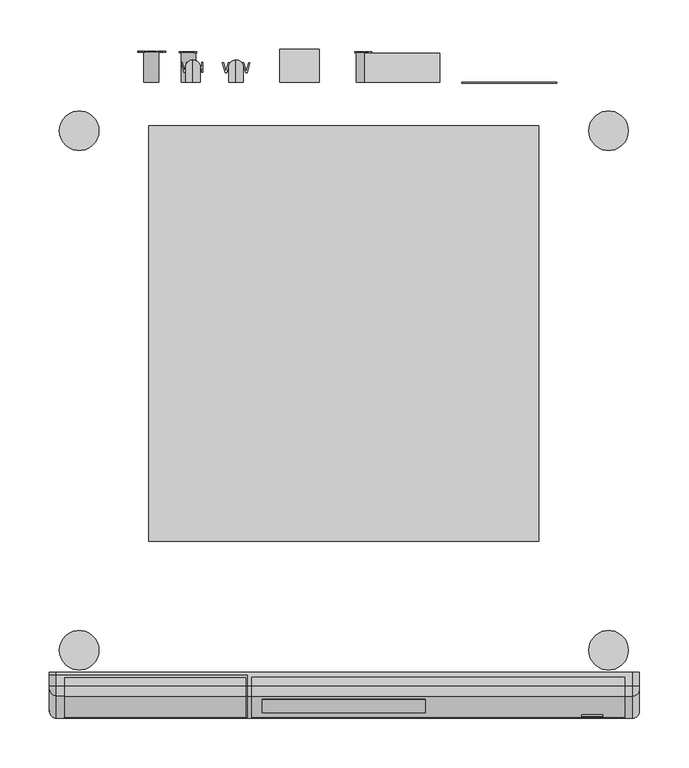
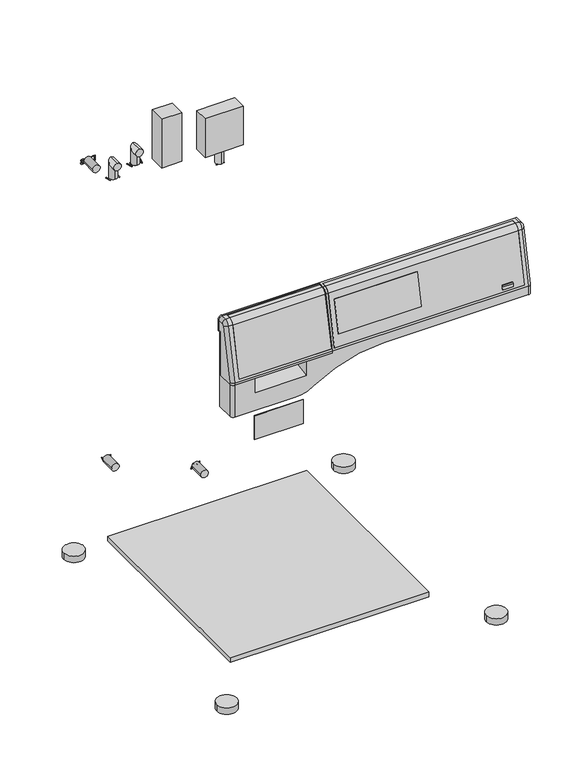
"""IFC4 building model written with IfcOpenShell, lengths in millimetres: proxy geometry, 11921290_F_PWM508DV_LW : 51508251_F_11921290_PWM508DV_LW."""

from ifc_helpers import new_model, si_unit, point, frame, frame_2d, origin, origin_with_axes, place, context, project, spatial, polyline, circle_curve, ellipse_curve, trimmed, segment, composite_curve, outline, extrude, source, transform, mapped, element, save
from ifc_brep_helpers import plane_surface, cylinder_surface, revolved_surface, advanced_brep


def specialty_equipment_d8dd58c1(model_context):
    return source(origin(), model_context, "Body", "SolidModel", [
        advanced_brep(
        [(-297.5, -634.5, 819.0), (-297.5, -640.0, 819.0), (-297.5, -640.0, 727.0), (-297.5, -671.0, 727.0), (-297.5, -671.0, 730.2642704), (-297.5, -648.6353607, 835.4816256), (-297.5, -644.8274781, 838.6486082), (-297.5, -634.5, 838.9190427), (-97.5, -655.4823939, 836.9370075), (-97.5, -678.0, 731.0), (-97.5, -678.0, 727.0), (-97.5, -640.0, 727.0), (-97.5, -640.0, 819.0), (-97.5, -634.5, 819.0), (-97.5, -634.5, 845.9214422), (-97.5, -645.0107168, 845.6462094), (-98.5, -655.4823939, 836.9370075), (-98.5, -677.1497738, 735.0), (-282.5, -677.1497738, 735.0), (-282.5, -655.4823939, 836.9370075), (-290.5, -655.4823939, 836.9370075), (-290.5, -678.0, 731.0), (-290.5, -678.0, 727.0), (-290.5, -634.5, 845.9214422), (-290.5, -645.0107168, 845.6462094), (-282.5, -645.0107168, 845.6462094), (-282.5, -636.5, 845.8690704), (-98.5, -636.5, 845.8690704), (-98.5, -645.0107168, 845.6462094), (-98.5, -654.5042463, 836.7290958), (-98.5, -676.1274332, 735.0), (-98.5, -636.5, 844.8687276), (-98.5, -644.9845398, 844.6465521), (-282.5, -654.5042463, 836.7290958), (-282.5, -644.9845398, 844.6465521), (-282.5, -636.5, 844.8687276), (-282.5, -676.1274332, 735.0)],
        [
            (0, 1),
            (1, 2),
            (2, 3),
            (3, 4),
            (4, 5),
            (5, 6, circle_curve(frame((-297.5, -644.7227703, 834.6499789), z_axis=(-1.0, 0.0, 0.0), x_axis=(0.0, -0.978147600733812, 0.20791169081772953)), 4.0)),
            (6, 7),
            (7, 0),
            (8, 9),
            (9, 10),
            (10, 11),
            (11, 12),
            (12, 13),
            (13, 14),
            (14, 15),
            (15, 8, circle_curve(frame((-97.5, -644.7227703, 834.6499789), z_axis=(1.0, 0.0, 0.0), x_axis=(0.0, 1.0, 0.0)), 11.0)),
            (8, 16),
            (16, 17),
            (17, 18),
            (18, 19),
            (19, 20),
            (20, 21),
            (21, 9),
            (21, 22),
            (22, 10),
            (22, 3, circle_curve(frame((-290.5, -671.0, 727.0), z_axis=(0.0, 0.0, -1.0), x_axis=(0.0, 1.0, 0.0)), 7.0)),
            (2, 11),
            (1, 12),
            (0, 13),
            (7, 23, ellipse_curve(frame((-290.5, -634.5, 838.9190427), z_axis=(0.0, 1.0, 0.0), x_axis=(0.0, 0.0, 1.0)), 7.0023995, 7.0)),
            (23, 14),
            (23, 24),
            (24, 25),
            (25, 26),
            (26, 27),
            (27, 28),
            (28, 15),
            (28, 16, circle_curve(frame((-98.5, -644.7227703, 834.6499789), z_axis=(1.0, 0.0, 0.0), x_axis=(0.0, 1.0, 0.0)), 11.0)),
            (19, 25, circle_curve(frame((-282.5, -644.7227703, 834.6499789), z_axis=(-1.0, 0.0, 0.0), x_axis=(0.0, 1.0, 0.0)), 11.0)),
            (24, 20, circle_curve(frame((-290.5, -644.7227703, 834.6499789), z_axis=(1.0, 0.0, 0.0), x_axis=(0.0, 1.0, 0.0)), 11.0)),
            (29, 30),
            (30, 17),
            (27, 31),
            (31, 32),
            (32, 29, circle_curve(frame((-98.5, -644.7227703, 834.6499789), z_axis=(1.0, 0.0, 0.0), x_axis=(0.0, 1.0, 0.0)), 10.0)),
            (33, 34, circle_curve(frame((-282.5, -644.7227703, 834.6499789), z_axis=(-1.0, 0.0, 0.0), x_axis=(0.0, 1.0, 0.0)), 10.0)),
            (34, 35),
            (35, 26),
            (18, 36),
            (36, 33),
            (29, 33),
            (36, 30),
            (32, 34),
            (31, 35),
            (6, 24, circle_curve(frame((-290.5, -644.8274781, 838.6486082), z_axis=(0.0, 0.9996573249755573, 0.026176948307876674), x_axis=(0.0, 0.026176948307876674, -0.9996573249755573)), 7.0)),
            (21, 4, ellipse_curve(frame((-290.5, -671.0, 730.2642704), z_axis=(0.0, -0.10452846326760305, -0.9945218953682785), x_axis=(0.0, -0.9945218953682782, 0.1045284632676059)), 7.038558, 7.0)),
            (20, 5, circle_curve(frame((-290.5, -648.6353607, 835.4816256), z_axis=(0.0, -0.2079116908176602, -0.9781476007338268), x_axis=(0.0, 0.9781476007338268, -0.2079116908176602)), 7.0)),
        ],
        [
            plane_surface(frame((-297.5, -655.4823939, 836.9370075), z_axis=(-1.0, 0.0, 0.0), x_axis=(0.0, 0.20791169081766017, 0.9781476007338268))),
            plane_surface(frame((-97.5, -655.4823939, 836.9370075), z_axis=(1.0, 0.0, 0.0), x_axis=(0.0, -0.20791169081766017, -0.9781476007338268))),
            plane_surface(frame((-97.5, -655.4823939, 836.9370075), z_axis=(0.0, -0.9781476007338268, 0.20791169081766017), x_axis=(-1.0, 0.0, 0.0))),
            plane_surface(frame((-97.5, -678.0, 731.0), z_axis=(0.0, -1.0, 0.0), x_axis=(-1.0, 0.0, 0.0))),
            plane_surface(frame((-97.5, -678.0, 727.0), z_axis=(0.0, 0.0, -1.0), x_axis=(-1.0, 0.0, 0.0))),
            plane_surface(frame((-97.5, -640.0, 727.0), z_axis=(0.0, 1.0, 0.0), x_axis=(-1.0, 0.0, 0.0))),
            plane_surface(frame((-97.5, -640.0, 819.0), z_axis=(0.0, 0.0, -1.0), x_axis=(-1.0, 0.0, 0.0))),
            plane_surface(frame((-97.5, -634.5, 819.0), z_axis=(0.0, 1.0, 0.0), x_axis=(-1.0, 0.0, 0.0))),
            plane_surface(frame((-97.5, -634.5, 845.9214422), z_axis=(0.0, -0.02617694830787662, 0.9996573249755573), x_axis=(-1.0, 0.0, 0.0))),
            cylinder_surface(frame((-297.5, -644.7227703, 834.6499789), z_axis=(1.0, 0.0, 0.0), x_axis=(0.0, 1.0, 0.0)), 11.0),
            plane_surface(frame((-98.5, -634.7227703, 834.6499789), z_axis=(-1.0, 0.0, 0.0), x_axis=(0.0, 0.0, -1.0))),
            plane_surface(frame((-282.5, -634.7227703, 834.6499789), z_axis=(1.0, 0.0, 0.0), x_axis=(0.0, 0.0, 1.0))),
            plane_surface(frame((-98.5, -676.1274332, 735.0), z_axis=(0.0, -0.9781476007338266, 0.2079116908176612), x_axis=(-1.0, 0.0, 0.0))),
            cylinder_surface(frame((-282.5, -644.7227703, 834.6499789), z_axis=(-1.0, 0.0, 0.0), x_axis=(0.0, 1.0, 0.0)), 10.0),
            plane_surface(frame((-98.5, -644.9845398, 844.6465521), z_axis=(0.0, -0.026176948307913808, 0.9996573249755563), x_axis=(-1.0, 0.0, 0.0))),
            plane_surface(frame((-98.5, -636.5, 844.8687276), z_axis=(0.0, -1.0, 0.0), x_axis=(-1.0, 0.0, 0.0))),
            plane_surface(frame((-98.5, -677.1497738, 735.0), z_axis=(0.0, 0.0, 1.0), x_axis=(-1.0, 0.0, 0.0))),
            cylinder_surface(frame((-290.5, -644.8274781, 838.6486082), z_axis=(0.0, 0.9996573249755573, 0.026176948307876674), x_axis=(0.0, 0.026176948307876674, -0.9996573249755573)), 7.0),
            cylinder_surface(frame((-290.5, -671.0, 727.0), z_axis=(0.0, 0.0, 1.0), x_axis=(0.0, 1.0, 0.0)), 7.0),
            cylinder_surface(frame((-290.5, -671.1529668, 729.5446182), z_axis=(0.0, 0.2079116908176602, 0.9781476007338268), x_axis=(0.0, 0.9781476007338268, -0.2079116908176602)), 7.0),
            revolved_surface(trimmed(ellipse_curve(frame((-290.5, -648.6353607, 835.4816256), z_axis=(0.0, -0.20791169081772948, -0.978147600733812), x_axis=(0.0, 0.978147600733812, -0.20791169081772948)), 7.0, 7.0), [point((-290.5, -655.4823939, 836.9370075))], [point((-297.5, -648.6353607, 835.4816256))], True, "CARTESIAN"), (-297.5, -644.7227703, 834.6499789), (-1.0, 0.0, 0.0)),
        ],
        [
            (0, [[1, 2, 3, 4, 5, 6, 7, 8]]),
            (1, [[9, 10, 11, 12, 13, 14, 15, 16]]),
            (2, [[-9, 17, 18, 19, 20, 21, 22, 23]]),
            (3, [[-10, -23, 24, 25]]),
            (4, [[-11, -25, 26, -3, 27]]),
            (5, [[-2, 28, -12, -27]]),
            (6, [[-1, 29, -13, -28]]),
            (7, [[-14, -29, -8, 30, 31]]),
            (8, [[-15, -31, 32, 33, 34, 35, 36, 37]]),
            (9, [[-16, -37, 38, -17]]),
            (9, [[39, -33, 40, -21]]),
            (10, [[41, 42, -18, -38, -36, 43, 44, 45]]),
            (11, [[46, 47, 48, -34, -39, -20, 49, 50]]),
            (12, [[-41, 51, -50, 52]]),
            (13, [[-45, 53, -46, -51]]),
            (14, [[-44, 54, -47, -53]]),
            (15, [[-43, -35, -48, -54]]),
            (16, [[-42, -52, -49, -19]]),
            (17, [[55, -32, -30, -7]]),
            (18, [[56, -4, -26, -24]]),
            (19, [[-56, -22, 57, -5]]),
            (20, [[-57, -40, -55, -6]]),
        ],
    ),
        extrude(outline(polyline([(-671.2386322, 758.0), (-672.2609728, 758.0), (-658.4447963, 823.0), (-657.4224557, 823.0), (-671.2386322, 758.0)])), frame((-82.5, 0.0, 0.0), z_axis=(1.0, 0.0, 0.0), x_axis=(0.0, 1.0, 0.0)), (0.0, 0.0, 1.0), 165.0),
        advanced_brep(
        [(284.0, -654.5042463, 836.7290958), (284.0, -644.9845398, 844.6465521), (284.0, -636.5, 844.8687276), (284.0, -636.5, 845.8690704), (284.0, -645.0107168, 845.6462094), (284.0, -655.4823939, 836.9370075), (284.0, -677.1497738, 735.0), (284.0, -676.1274332, 735.0), (-93.0, -654.5042463, 836.7290958), (-93.0, -676.1274332, 735.0), (-93.0, -677.1497738, 735.0), (-93.0, -655.4823939, 836.9370075), (-93.0, -645.0107168, 845.6462094), (-93.0, -636.5, 845.8690704), (-93.0, -636.5, 844.8687276), (-93.0, -644.9845398, 844.6465521), (82.5, -658.4447963, 823.0), (82.5, -672.2609728, 758.0), (-82.5, -672.2609728, 758.0), (-82.5, -658.4447963, 823.0), (82.5, -671.2386322, 758.0), (82.5, -657.4224557, 823.0), (-82.5, -657.4224557, 823.0), (-82.5, -671.2386322, 758.0)],
        [
            (0, 1, circle_curve(frame((284.0, -644.7227703, 834.6499789), z_axis=(-1.0, 0.0, 0.0), x_axis=(0.0, 1.0, 0.0)), 10.0)),
            (1, 2),
            (2, 3),
            (3, 4),
            (4, 5, circle_curve(frame((284.0, -644.7227703, 834.6499789), z_axis=(1.0, 0.0, 0.0), x_axis=(0.0, 1.0, 0.0)), 11.0)),
            (5, 6),
            (6, 7),
            (7, 0),
            (8, 9),
            (9, 10),
            (10, 11),
            (11, 12, circle_curve(frame((-93.0, -644.7227703, 834.6499789), z_axis=(-1.0, 0.0, 0.0), x_axis=(0.0, 1.0, 0.0)), 11.0)),
            (12, 13),
            (13, 14),
            (14, 15),
            (15, 8, circle_curve(frame((-93.0, -644.7227703, 834.6499789), z_axis=(1.0, 0.0, 0.0), x_axis=(0.0, 1.0, 0.0)), 10.0)),
            (0, 8),
            (15, 1),
            (14, 2),
            (13, 3),
            (12, 4),
            (11, 5),
            (10, 6),
            (16, 17),
            (17, 18),
            (18, 19),
            (19, 16),
            (9, 7),
            (20, 21),
            (21, 22),
            (22, 23),
            (23, 20),
            (20, 17),
            (16, 21),
            (22, 19),
            (18, 23),
        ],
        [
            plane_surface(frame((284.0, -634.7227703, 834.6499789), z_axis=(1.0, 0.0, 0.0), x_axis=(0.0, 0.0, -1.0))),
            plane_surface(frame((-93.0, -634.7227703, 834.6499789), z_axis=(-1.0, 0.0, 0.0), x_axis=(0.0, 0.0, 1.0))),
            revolved_surface(polyline([(-93.0, -634.7227703, 834.6499789), (284.0, -634.7227703, 834.6499789)]), (-93.0, -644.7227703, 834.6499789), (-1.0, 0.0, 0.0)),
            plane_surface(frame((284.0, -644.9845398, 844.6465521), z_axis=(0.0, 0.02617694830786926, -0.9996573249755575), x_axis=(-1.0, 0.0, 0.0))),
            plane_surface(frame((284.0, -636.5, 844.8687276), z_axis=(0.0, 1.0, 0.0), x_axis=(-1.0, 0.0, 0.0))),
            plane_surface(frame((284.0, -636.5, 845.8690704), z_axis=(0.0, -0.026176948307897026, 0.9996573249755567), x_axis=(-1.0, 0.0, 0.0))),
            cylinder_surface(frame((-93.0, -644.7227703, 834.6499789), z_axis=(1.0, 0.0, 0.0), x_axis=(0.0, 1.0, 0.0)), 11.0),
            plane_surface(frame((284.0, -655.4823939, 836.9370075), z_axis=(0.0, -0.9781476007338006, 0.20791169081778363), x_axis=(-1.0, 0.0, 0.0))),
            plane_surface(frame((284.0, -677.1497738, 735.0), z_axis=(0.0, 0.0, -1.0), x_axis=(-1.0, 0.0, 0.0))),
            plane_surface(frame((284.0, -676.1274332, 735.0), z_axis=(0.0, 0.9781476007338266, -0.2079116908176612), x_axis=(-1.0, 0.0, 0.0))),
            plane_surface(frame((82.5, -658.4447963, 823.0), z_axis=(-1.0, 0.0, 0.0), x_axis=(0.0, -1.0, 0.0))),
            plane_surface(frame((-82.5, -658.4447963, 823.0), z_axis=(1.0, 0.0, 0.0), x_axis=(0.0, 1.0, 0.0))),
            plane_surface(frame((82.5, -657.4224557, 823.0), z_axis=(0.0, 0.0, -1.0), x_axis=(-1.0, 0.0, 0.0))),
            plane_surface(frame((82.5, -672.2609728, 758.0), z_axis=(0.0, 0.0, 1.0), x_axis=(-1.0, 0.0, 0.0))),
        ],
        [
            (0, [[1, 2, 3, 4, 5, 6, 7, 8]]),
            (1, [[9, 10, 11, 12, 13, 14, 15, 16]]),
            (2, [[-1, 17, -16, 18]]),
            (3, [[-2, -18, -15, 19]]),
            (4, [[-3, -19, -14, 20]]),
            (5, [[-4, -20, -13, 21]]),
            (6, [[-5, -21, -12, 22]]),
            (7, [[-6, -22, -11, 23], [24, 25, 26, 27]]),
            (8, [[-7, -23, -10, 28]]),
            (9, [[-8, -28, -9, -17], [29, 30, 31, 32]]),
            (10, [[33, -24, 34, -29]]),
            (11, [[35, -26, 36, -31]]),
            (12, [[-34, -27, -35, -30]]),
            (13, [[-33, -32, -36, -25]]),
        ],
    ),
        advanced_brep(
        [(298.5, -637.0, 816.0), (298.5, -631.5, 816.0), (298.5, -631.5, 838.9976005), (298.5, -644.8274781, 838.6486082), (298.5, -648.6353607, 835.4816256), (298.5, -671.0, 730.2642704), (298.5, -671.0, 713.0), (298.5, -637.0, 713.0), (-297.5, -637.0, 816.0), (-297.5, -637.0, 660.0), (-297.5, -671.0, 660.0), (-297.5, -671.0, 727.0), (-297.5, -640.0, 727.0), (-297.5, -640.0, 819.0), (-297.5, -634.5, 819.0), (-297.5, -634.5, 838.9190427), (-297.5, -631.5, 838.9976005), (-297.5, -631.5, 816.0), (-290.5, -631.5, 846.0), (291.5, -631.5, 846.0), (284.0, -636.5, 845.8690704), (284.0, -645.0107168, 845.6462094), (291.5, -645.0107168, 845.6462094), (-290.5, -634.5, 845.9214422), (-97.5, -634.5, 845.9214422), (-97.5, -645.0107168, 845.6462094), (-93.0, -645.0107168, 845.6462094), (-93.0, -636.5, 845.8690704), (284.0, -655.4823939, 836.9370075), (291.5000072, -655.4823939, 836.9370075), (-93.0, -655.4823939, 836.9370075), (-97.5, -655.4823939, 836.9370075), (284.0, -677.1497738, 735.0), (-93.0, -677.1497738, 735.0), (-97.5, -678.0, 731.0), (291.5, -678.0, 731.0), (-97.5, -678.0, 727.0), (-148.5, -678.0, 727.0), (-148.5, -678.0, 697.0), (-251.5, -678.0, 697.0), (-251.5, -678.0, 727.0), (-290.5, -678.0, 727.0), (-290.5, -678.0, 660.0), (-170.6302935, -678.0, 660.0), (-135.780818, -678.0, 670.5165354), (5.0, -678.0, 713.0), (291.5, -678.0, 713.0), (-170.6302935, -637.0, 660.0), (5.0, -637.0, 713.0), (-135.780818, -637.0, 670.5165354), (284.0, -636.5, 844.8687276), (284.0, -644.9845398, 844.6465521), (284.0, -654.5042463, 836.7290958), (284.0, -676.1274332, 735.0), (-93.0, -676.1274332, 735.0), (-93.0, -654.5042463, 836.7290958), (-93.0, -644.9845398, 844.6465521), (-93.0, -636.5, 844.8687276), (-97.5, -634.5, 819.0), (-97.5, -640.0, 819.0), (-97.5, -640.0, 727.0), (-148.5, -640.0, 727.0), (-251.5, -640.0, 727.0), (-251.5, -640.0, 703.7004253), (-148.5, -640.0, 703.7004253)],
        [
            (0, 1),
            (1, 2),
            (2, 3),
            (3, 4, circle_curve(frame((298.5, -644.7227703, 834.6499789), z_axis=(1.0, 0.0, 0.0), x_axis=(0.0, -0.02617694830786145, 0.9996573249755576)), 4.0)),
            (4, 5),
            (5, 6),
            (6, 7),
            (7, 0),
            (8, 9),
            (9, 10),
            (10, 11),
            (11, 12),
            (12, 13),
            (13, 14),
            (14, 15),
            (15, 16),
            (16, 17),
            (17, 8),
            (0, 8),
            (17, 1),
            (16, 18, ellipse_curve(frame((-290.5, -631.5, 838.9976005), z_axis=(0.0, 1.0, 0.0), x_axis=(0.0, 0.0, 0.9999999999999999)), 7.0023995, 7.0)),
            (18, 19),
            (19, 2, ellipse_curve(frame((291.5, -631.5, 838.9976005), z_axis=(0.0, 1.0, 0.0), x_axis=(0.0, 0.0, -1.0)), 7.0023995, 7.0)),
            (20, 21),
            (21, 22),
            (22, 19),
            (18, 23),
            (23, 24),
            (24, 25),
            (25, 26),
            (26, 27),
            (27, 20),
            (21, 28, circle_curve(frame((284.0, -644.7227703, 834.6499789), z_axis=(1.0, 0.0, 0.0), x_axis=(0.0, 1.0, 0.0)), 11.0)),
            (28, 29),
            (29, 22, circle_curve(frame((291.5, -644.7227703, 834.6499789), z_axis=(-1.0, 0.0, 0.0), x_axis=(0.0, 1.0, 0.0)), 11.0)),
            (30, 26, circle_curve(frame((-93.0, -644.7227703, 834.6499789), z_axis=(-1.0, 0.0, 0.0), x_axis=(0.0, 1.0, 0.0)), 11.0)),
            (25, 31, circle_curve(frame((-97.5, -644.7227703, 834.6499789), z_axis=(1.0, 0.0, 0.0), x_axis=(0.0, 1.0, 0.0)), 11.0)),
            (31, 30),
            (28, 32),
            (32, 33),
            (33, 30),
            (31, 34),
            (34, 35),
            (35, 29),
            (34, 36),
            (36, 37),
            (37, 38),
            (38, 39),
            (39, 40),
            (40, 41),
            (41, 42),
            (42, 43),
            (43, 44, circle_curve(frame((-170.6302935, -678.0, 723.0), z_axis=(0.0, -1.0, 0.0), x_axis=(1.0, 0.0, 0.0)), 63.0)),
            (44, 45, circle_curve(frame((5.0, -678.0, 458.5), z_axis=(0.0, 1.0, 0.0), x_axis=(1.0, 0.0, 0.0)), 254.5)),
            (45, 46),
            (46, 35),
            (9, 47),
            (47, 43),
            (42, 10, circle_curve(frame((-290.5, -671.0, 660.0), z_axis=(0.0, 0.0, -1.0), x_axis=(0.0, 1.0, 0.0)), 7.0)),
            (7, 48),
            (48, 49, circle_curve(frame((5.0, -637.0, 458.5), z_axis=(0.0, -1.0, 0.0), x_axis=(1.0, 0.0, 0.0)), 254.5)),
            (49, 47, circle_curve(frame((-170.6302935, -637.0, 723.0), z_axis=(0.0, 1.0, 0.0), x_axis=(1.0, 0.0, 0.0)), 63.0)),
            (20, 50),
            (50, 51),
            (51, 52, circle_curve(frame((284.0, -644.7227703, 834.6499789), z_axis=(1.0, 0.0, 0.0), x_axis=(0.0, 1.0, 0.0)), 10.0)),
            (52, 53),
            (53, 32),
            (33, 54),
            (54, 55),
            (55, 56, circle_curve(frame((-93.0, -644.7227703, 834.6499789), z_axis=(-1.0, 0.0, 0.0), x_axis=(0.0, 1.0, 0.0)), 10.0)),
            (56, 57),
            (57, 27),
            (53, 54),
            (52, 55),
            (51, 56),
            (50, 57),
            (24, 58),
            (58, 59),
            (59, 60),
            (60, 36),
            (60, 61),
            (61, 37),
            (62, 12),
            (11, 41, circle_curve(frame((-290.5, -671.0, 727.0), z_axis=(0.0, 0.0, 1.0), x_axis=(0.0, 1.0, 0.0)), 7.0)),
            (40, 62),
            (59, 13),
            (62, 63),
            (63, 64),
            (64, 61),
            (58, 14),
            (23, 15, ellipse_curve(frame((-290.5, -634.5, 838.9190427), z_axis=(0.0, -1.0, 0.0), x_axis=(0.0, 0.0, 0.9999999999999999)), 7.0023995, 7.0)),
            (64, 38),
            (39, 63),
            (22, 3, circle_curve(frame((291.5, -644.8274781, 838.6486082), z_axis=(0.0, 0.9996573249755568, 0.02617694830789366), x_axis=(1.0, 0.0, 0.0)), 7.0)),
            (29, 4, circle_curve(frame((291.5, -648.6353607, 835.4816256), z_axis=(0.0, 0.20791169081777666, 0.9781476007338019), x_axis=(1.0, 0.0, 0.0)), 7.0)),
            (35, 5, ellipse_curve(frame((291.5, -671.0, 730.2642704), z_axis=(0.0, 0.10452846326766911, 0.9945218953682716), x_axis=(0.0, -0.9945218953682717, 0.10452846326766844)), 7.038558, 7.0)),
            (46, 6, circle_curve(frame((291.5, -671.0, 713.0), z_axis=(0.0, 0.0, 1.0), x_axis=(1.0, 0.0, 0.0)), 7.0)),
            (45, 48),
            (44, 49),
        ],
        [
            plane_surface(frame((298.5, -631.5, 816.0), z_axis=(1.0, 0.0, 0.0), x_axis=(0.0, 1.0, 0.0))),
            plane_surface(frame((-297.5, -631.5, 816.0), z_axis=(-1.0, 0.0, 0.0), x_axis=(0.0, -1.0, 0.0))),
            plane_surface(frame((298.5, -637.0, 816.0), z_axis=(0.0, 0.0, -1.0), x_axis=(-1.0, 0.0, 0.0))),
            plane_surface(frame((298.5, -631.5, 816.0), z_axis=(0.0, 1.0, 0.0), x_axis=(-1.0, 0.0, 0.0))),
            plane_surface(frame((298.5, -631.5, 846.0), z_axis=(0.0, -0.026176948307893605, 0.9996573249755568), x_axis=(-1.0, 0.0, 0.0))),
            cylinder_surface(frame((-297.5, -644.7227703, 834.6499789), z_axis=(1.0, 0.0, 0.0), x_axis=(0.0, 1.0, 0.0)), 11.0),
            plane_surface(frame((298.5, -655.4823939, 836.9370075), z_axis=(0.0, -0.9781476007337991, 0.20791169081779), x_axis=(-1.0, 0.0, 0.0))),
            plane_surface(frame((298.5, -678.0, 731.0), z_axis=(0.0, -1.0, 0.0), x_axis=(-1.0, 0.0, 0.0))),
            plane_surface(frame((298.5, -678.0, 660.0), z_axis=(0.0, 0.0, -1.0), x_axis=(-1.0, 0.0, 0.0))),
            plane_surface(frame((298.5, -637.0, 660.0), z_axis=(0.0, 1.0, 0.0), x_axis=(-1.0, 0.0, 0.0))),
            plane_surface(frame((284.0, -677.1497738, 735.0), z_axis=(-1.0, 0.0, 0.0), x_axis=(0.0, 1.0, 0.0))),
            plane_surface(frame((-93.0, -677.1497738, 735.0), z_axis=(1.0, 0.0, 0.0), x_axis=(0.0, -1.0, 0.0))),
            plane_surface(frame((284.0, -677.1497738, 735.0), z_axis=(0.0, 0.0, 1.0), x_axis=(-1.0, 0.0, 0.0))),
            plane_surface(frame((284.0, -676.1274332, 735.0), z_axis=(0.0, -0.9781476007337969, 0.20791169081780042), x_axis=(-1.0, 0.0, 0.0))),
            cylinder_surface(frame((-93.0, -644.7227703, 834.6499789), z_axis=(-1.0, 0.0, 0.0), x_axis=(0.0, 1.0, 0.0)), 10.0),
            plane_surface(frame((284.0, -644.9845398, 844.6465521), z_axis=(0.0, -0.026176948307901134, 0.9996573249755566), x_axis=(-1.0, 0.0, 0.0))),
            plane_surface(frame((284.0, -636.5, 844.8687276), z_axis=(0.0, -1.0, 0.0), x_axis=(-1.0, 0.0, 0.0))),
            plane_surface(frame((-97.5, -678.0, 727.0), z_axis=(-1.0, 0.0, 0.0), x_axis=(0.0, 1.0, 0.0))),
            plane_surface(frame((-97.5, -678.0, 727.0), z_axis=(0.0, 0.0, 1.0), x_axis=(-1.0, 0.0, 0.0))),
            plane_surface(frame((-97.5, -640.0, 727.0), z_axis=(0.0, -1.0, 0.0), x_axis=(-1.0, 0.0, 0.0))),
            plane_surface(frame((-97.5, -640.0, 819.0), z_axis=(0.0, 0.0, 1.0), x_axis=(-1.0, 0.0, 0.0))),
            plane_surface(frame((-97.5, -634.5, 819.0), z_axis=(0.0, -1.0, 0.0), x_axis=(-1.0, 0.0, 0.0))),
            plane_surface(frame((-148.5, -678.0, 697.0), z_axis=(-1.0000000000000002, 0.0, 0.0), x_axis=(0.0, 0.9848077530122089, 0.17364817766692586))),
            plane_surface(frame((-251.5, -678.0, 697.0), z_axis=(1.0000000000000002, 0.0, 0.0), x_axis=(0.0, -0.9848077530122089, -0.17364817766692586))),
            plane_surface(frame((-148.5, -678.0, 697.0), z_axis=(0.0, -0.17364817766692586, 0.9848077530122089), x_axis=(-1.0, 0.0, 0.0))),
            cylinder_surface(frame((-290.5, -671.0, 660.0), z_axis=(0.0, 0.0, 1.0), x_axis=(0.0, 1.0, 0.0)), 7.0),
            cylinder_surface(frame((-290.5, -644.8274781, 838.6486082), z_axis=(0.0, 0.9996573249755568, 0.02617694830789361), x_axis=(0.0, 0.02617694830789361, -0.9996573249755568)), 7.0),
            cylinder_surface(frame((291.5, -631.3167614, 839.0023987), z_axis=(0.0, -0.9996573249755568, -0.02617694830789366), x_axis=(1.0, 0.0, 0.0)), 7.0),
            revolved_surface(trimmed(ellipse_curve(frame((291.5, -644.8274781, 838.6486082), z_axis=(0.0, 0.9996573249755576, 0.026176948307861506), x_axis=(1.0, 0.0, 0.0)), 7.0, 7.0), [point((291.5, -645.0107168, 845.6462094))], [point((298.5, -644.8274781, 838.6486082))], True, "CARTESIAN"), (298.5, -644.7227703, 834.6499789), (1.0, 0.0, 0.0)),
            cylinder_surface(frame((291.5, -648.6353607, 835.4816256), z_axis=(0.0, -0.20791169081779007, -0.9781476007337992), x_axis=(1.0, 0.0, 0.0)), 7.0),
            cylinder_surface(frame((291.5, -671.0, 731.0), z_axis=(0.0, 0.0, -1.0), x_axis=(1.0, 0.0, 0.0)), 7.0),
            plane_surface(frame((298.5, -678.0, 713.0), z_axis=(0.0, 0.0, -1.0), x_axis=(0.0, 1.0, 0.0))),
            revolved_surface(polyline([(259.5, -678.0, 458.5), (259.5, -637.0, 458.5)]), (5.0, -637.0, 458.5), (0.0, -1.0, 0.0)),
            cylinder_surface(frame((-170.6302935, -637.0, 723.0), z_axis=(0.0, 1.0, 0.0), x_axis=(1.0, 0.0, 0.0)), 63.0),
        ],
        [
            (0, [[1, 2, 3, 4, 5, 6, 7, 8]]),
            (1, [[9, 10, 11, 12, 13, 14, 15, 16, 17, 18]]),
            (2, [[-1, 19, -18, 20]]),
            (3, [[-20, -17, 21, 22, 23, -2]]),
            (4, [[24, 25, 26, -22, 27, 28, 29, 30, 31, 32]]),
            (5, [[33, 34, 35, -25]]),
            (5, [[36, -30, 37, 38]]),
            (6, [[39, 40, 41, -38, 42, 43, 44, -34]]),
            (7, [[45, 46, 47, 48, 49, 50, 51, 52, 53, 54, 55, 56, -43]]),
            (8, [[-10, 57, 58, -52, 59]]),
            (9, [[-9, -19, -8, 60, 61, 62, -57]]),
            (10, [[63, 64, 65, 66, 67, -39, -33, -24]]),
            (11, [[68, 69, 70, 71, 72, -31, -36, -41]]),
            (12, [[-67, 73, -68, -40]]),
            (13, [[-66, 74, -69, -73]]),
            (14, [[-65, 75, -70, -74]]),
            (15, [[-64, 76, -71, -75]]),
            (16, [[-63, -32, -72, -76]]),
            (17, [[77, 78, 79, 80, -45, -42, -37, -29]]),
            (18, [[-80, 81, 82, -46]]),
            (18, [[83, -12, 84, -50, 85]]),
            (19, [[-79, 86, -13, -83, 87, 88, 89, -81]]),
            (20, [[-78, 90, -14, -86]]),
            (21, [[-77, -28, 91, -15, -90]]),
            (22, [[-89, 92, -47, -82]]),
            (23, [[93, -87, -85, -49]]),
            (24, [[-92, -88, -93, -48]]),
            (25, [[-11, -59, -51, -84]]),
            (26, [[-16, -91, -27, -21]]),
            (27, [[94, -3, -23, -26]]),
            (28, [[-94, -35, 95, -4]]),
            (29, [[-95, -44, 96, -5]]),
            (30, [[-96, -56, 97, -6]]),
            (31, [[98, -60, -7, -97, -55]]),
            (32, [[-98, -54, 99, -61]]),
            (33, [[-99, -53, -58, -62]]),
        ],
    ),
        extrude(outline(polyline([(-675.8744344, 741.0), (-678.0, 741.0), (-676.8772818, 746.2819736), (-675.6098453, 749.0), (-674.1739819, 749.0), (-675.8744344, 741.0)])), frame((240.5, 0.0, 0.0), z_axis=(1.0, 0.0, 0.0), x_axis=(0.0, 1.0, 0.0)), (0.0, 0.0, 1.0), 21.0),
        extrude(outline(composite_curve([segment(polyline([(-676.1274332, 735.0), (-677.1497738, 735.0), (-655.4823939, 836.9370075)]), True, "CONTINUOUS"), segment(trimmed(circle_curve(frame_2d((-644.7227703, 834.6499789)), 11.0), [point((-655.4823939, 836.9370075))], [point((-645.0107168, 845.6462094))], False, "CARTESIAN"), True, "CONTINUOUS"), segment(polyline([(-645.0107168, 845.6462094), (-636.5, 845.8690704), (-636.5, 844.8687276), (-644.9845398, 844.6465521)]), True, "CONTINUOUS"), segment(trimmed(circle_curve(frame_2d((-644.7227703, 834.6499789)), 10.0), [point((-644.9845398, 844.6465521))], [point((-654.5042463, 836.7290958))], True, "CARTESIAN"), True, "CONTINUOUS"), segment(polyline([(-654.5042463, 836.7290958), (-676.1274332, 735.0)]), True, "CONTINUOUS")], self_intersect=False)), frame((-282.5, 0.0, 0.0), z_axis=(1.0, 0.0, 0.0), x_axis=(0.0, 1.0, 0.0)), (0.0, 0.0, 1.0), 184.0),
        extrude(outline(composite_curve([segment(trimmed(circle_curve(frame_2d((757.5, -194.5)), 7.5), [point((757.5, -187.0))], [point((757.5, -202.0))], False, "CARTESIAN"), True, "CONTINUOUS"), segment(trimmed(circle_curve(frame_2d((757.5, -194.5)), 7.5), [point((757.5, -202.0))], [point((757.5, -187.0))], False, "CARTESIAN"), True, "CONTINUOUS")], self_intersect=False)), frame((0.0, -35.0, 0.0), z_axis=(0.0, 1.0, 0.0), x_axis=(0.0, 0.0, 1.0)), (0.0, 0.0, 1.0), 30.0),
        extrude(outline(polyline([(752.5, -179.9815352), (762.545631, -179.9815352), (762.545631, -183.4469836), (762.4009308, -185.2397952), (761.6823346, -186.7162282), (759.965552, -187.9057134), (757.5767715, -188.3005734), (755.5497417, -188.0332458), (754.0867977, -187.3465327), (753.1756766, -186.4292803), (752.6716783, -185.2287587), (752.5, -183.6137568), (752.5, -179.9815352)]), holes=[polyline([(753.7557039, -181.2372391), (753.7557039, -183.4592463), (753.9371923, -185.0754745), (754.4497746, -186.0074423), (755.6968945, -186.7714105), (757.5963919, -187.0448695), (759.9753621, -186.5089881), (761.0888183, -185.2054595), (761.2899271, -183.4249107), (761.2899271, -181.2372391), (753.7557039, -181.2372391)])]), frame((0.0, -5.0, 0.0), z_axis=(0.0, 1.0, 0.0), x_axis=(0.0, 0.0, 1.0)), (0.0, 0.0, 1.0), 1.0),
        extrude(outline(polyline([(757.390378, -189.5562772), (761.2923797, -190.8953677), (762.702594, -194.3510059), (762.0404064, -196.8501509), (760.1936388, -198.5473132), (757.5056477, -199.1310193), (754.7808684, -198.5166564), (752.9610788, -196.7753483), (752.343037, -194.3436483), (753.0260713, -191.8175252), (754.8900067, -190.1301732), (757.390378, -189.5562772)]), holes=[polyline([(757.3781153, -190.8119811), (754.6091901, -191.816299), (753.5987409, -194.3362906), (754.6190003, -196.8783552), (757.5154579, -197.8753154), (759.5878598, -197.4485723), (760.9600596, -196.2014524), (761.4468901, -194.3583636), (760.508791, -191.8592185), (757.3781153, -190.8119811)])]), frame((0.0, -5.0, 0.0), z_axis=(0.0, 1.0, 0.0), x_axis=(0.0, 0.0, 1.0)), (0.0, 0.0, 1.0), 1.0),
        extrude(outline(polyline([(755.9531857, -200.3867232), (755.9531857, -201.6424271), (754.6962555, -202.0470973), (753.9016304, -203.0354736), (753.5987409, -204.5413372), (753.828054, -205.8534496), (754.4583585, -206.7008045), (755.3008083, -206.9791685), (756.0843969, -206.7707021), (756.654614, -205.9172158), (757.1340869, -204.0888423), (757.7533549, -202.1206737), (758.6877752, -201.0525896), (759.9361214, -200.7006492), (761.3573722, -201.1359762), (762.3604637, -202.4076216), (762.702594, -204.2691045), (762.3445222, -206.2556673), (761.2923797, -207.5800425), (759.7202973, -208.0779094), (759.7202973, -206.8222056), (761.0103368, -206.110967), (761.4468901, -204.3181554), (761.0152419, -202.5204388), (759.9729096, -201.956353), (759.1022555, -202.3561181), (758.4008272, -204.4064471), (757.7705227, -206.6284544), (756.7527159, -207.8436912), (755.3326914, -208.2348724), (753.8305065, -207.7848301), (752.7342182, -206.4898855), (752.343037, -204.5903881), (752.764875, -202.3475342), (754.0352942, -200.928736), (755.9531857, -200.3867232)])), frame((0.0, -5.0, 0.0), z_axis=(0.0, 1.0, 0.0), x_axis=(0.0, 0.0, 1.0)), (0.0, 0.0, 1.0), 1.0),
        advanced_brep(
        [(-152.5, -35.0, 739.0), (-152.5, -35.0, 754.0), (-152.5, -27.5, 739.0), (-152.5, -12.5, 754.0), (-152.5, -27.5, 716.5), (-152.5, -12.5, 716.5)],
        [
            (0, 1, circle_curve(frame((-152.5, -35.0, 746.5), z_axis=(0.0, -1.0, 0.0), x_axis=(0.0, 0.0, 1.0)), 7.5)),
            (1, 0, circle_curve(frame((-152.5, -35.0, 746.5), z_axis=(0.0, -1.0, 0.0), x_axis=(0.0, 0.0, 1.0)), 7.5)),
            (0, 2),
            (2, 3, ellipse_curve(frame((-152.5, -20.0, 746.5), z_axis=(0.0, -0.7071067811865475, 0.7071067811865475), x_axis=(0.0, -0.7071067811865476, -0.7071067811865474)), 10.6066017, 7.5)),
            (3, 1),
            (3, 2, ellipse_curve(frame((-152.5, -20.0, 746.5), z_axis=(0.0, -0.7071067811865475, 0.7071067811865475), x_axis=(0.0, -0.7071067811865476, -0.7071067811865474)), 10.6066017, 7.5)),
            (4, 5, circle_curve(frame((-152.5, -20.0, 716.5), z_axis=(0.0, 0.0, -1.0), x_axis=(0.0, 1.0, 0.0)), 7.5)),
            (5, 4, circle_curve(frame((-152.5, -20.0, 716.5), z_axis=(0.0, 0.0, -1.0), x_axis=(0.0, 1.0, 0.0)), 7.5)),
            (2, 4),
            (5, 3),
        ],
        [
            plane_surface(frame((-298.0, -35.0, 746.5), z_axis=(0.0, -1.0, 0.0), x_axis=(1.0, 0.0, 0.0))),
            cylinder_surface(frame((-152.5, -35.0, 746.5), z_axis=(0.0, -1.0, 0.0), x_axis=(0.0, 0.0, 1.0)), 7.5),
            plane_surface(frame((-298.0, -20.0, 716.5), z_axis=(0.0, 0.0, -1.0), x_axis=(1.0, 0.0, 0.0))),
            cylinder_surface(frame((-152.5, -20.0, 746.5), z_axis=(0.0, 0.0, 1.0), x_axis=(0.0, 1.0, 0.0)), 7.5),
        ],
        [
            (0, [[1, 2]]),
            (1, [[-1, 3, 4, 5]]),
            (1, [[-2, -5, 6, -3]]),
            (2, [[7, 8]]),
            (3, [[-4, 9, -8, 10]]),
            (3, [[-6, -10, -7, -9]]),
        ],
    ),
        advanced_brep(
        [(-109.0, -35.0, 753.5), (-109.0, -35.0, 768.5), (-109.0, -27.5, 753.5), (-109.0, -12.5, 768.5), (-109.0, -27.5, 731.0), (-109.0, -12.5, 731.0)],
        [
            (0, 1, circle_curve(frame((-109.0, -35.0, 761.0), z_axis=(0.0, -1.0, 0.0), x_axis=(0.0, 0.0, 1.0)), 7.5)),
            (1, 0, circle_curve(frame((-109.0, -35.0, 761.0), z_axis=(0.0, -1.0, 0.0), x_axis=(0.0, 0.0, 1.0)), 7.5)),
            (0, 2),
            (2, 3, ellipse_curve(frame((-109.0, -20.0, 761.0), z_axis=(0.0, -0.7071067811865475, 0.7071067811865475), x_axis=(0.0, -0.7071067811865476, -0.7071067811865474)), 10.6066017, 7.5)),
            (3, 1),
            (3, 2, ellipse_curve(frame((-109.0, -20.0, 761.0), z_axis=(0.0, -0.7071067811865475, 0.7071067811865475), x_axis=(0.0, -0.7071067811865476, -0.7071067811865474)), 10.6066017, 7.5)),
            (4, 5, circle_curve(frame((-109.0, -20.0, 731.0), z_axis=(0.0, 0.0, -1.0), x_axis=(0.0, 1.0, 0.0)), 7.5)),
            (5, 4, circle_curve(frame((-109.0, -20.0, 731.0), z_axis=(0.0, 0.0, -1.0), x_axis=(0.0, 1.0, 0.0)), 7.5)),
            (2, 4),
            (5, 3),
        ],
        [
            plane_surface(frame((-298.0, -35.0, 761.0), z_axis=(0.0, -1.0, 0.0), x_axis=(1.0, 0.0, 0.0))),
            cylinder_surface(frame((-109.0, -35.0, 761.0), z_axis=(0.0, -1.0, 0.0), x_axis=(0.0, 0.0, 1.0)), 7.5),
            plane_surface(frame((-298.0, -20.0, 731.0), z_axis=(0.0, 0.0, -1.0), x_axis=(1.0, 0.0, 0.0))),
            cylinder_surface(frame((-109.0, -20.0, 761.0), z_axis=(0.0, 0.0, 1.0), x_axis=(0.0, 1.0, 0.0)), 7.5),
        ],
        [
            (0, [[1, 2]]),
            (1, [[-1, 3, 4, 5]]),
            (1, [[-2, -5, 6, -3]]),
            (2, [[7, 8]]),
            (3, [[-4, 9, -8, 10]]),
            (3, [[-6, -10, -7, -9]]),
        ],
    ),
        extrude(outline(polyline([(-142.5237638, -25.0), (-143.7834134, -25.0), (-143.7834134, -21.5422104), (-145.4717236, -19.9295918), (-149.3062539, -24.9960047), (-150.8371057, -24.9960047), (-146.3635304, -19.0812626), (-150.682024, -14.9545468), (-148.9188384, -14.9545468), (-143.7734276, -19.8714576), (-143.7734276, -14.9547748), (-142.5237638, -14.9547748), (-142.5237638, -25.0)])), frame((0.0, 0.0, 715.5), z_axis=(0.0, 0.0, 1.0), x_axis=(1.0, 0.0, 0.0)), (0.0, 0.0, 1.0), 1.0),
        extrude(outline(polyline([(-153.5799346, -25.0), (-155.1013346, -25.0), (-157.6681659, -16.1680585), (-160.4132353, -25.0), (-161.7588291, -25.0), (-164.4977428, -14.9547748), (-163.1999912, -14.9547748), (-161.1258941, -23.5916213), (-158.6010837, -14.9547748), (-156.7331206, -14.9547748), (-154.2135942, -23.5959701), (-152.1412312, -14.9547748), (-150.8442078, -14.9547748), (-153.5799346, -25.0)])), frame((0.0, 0.0, 715.5), z_axis=(0.0, 0.0, 1.0), x_axis=(1.0, 0.0, 0.0)), (0.0, 0.0, 1.0), 1.0),
        extrude(outline(polyline([(-97.7677732, -25.6276222), (-99.2866418, -25.6276222), (-101.8572009, -16.7897083), (-104.60351, -25.6247434), (-105.9438154, -25.6247434), (-108.6845916, -15.5772781), (-107.3877267, -15.5772781), (-105.310674, -24.218418), (-102.7878261, -15.5770934), (-100.9207392, -15.5770934), (-98.4046917, -24.2181787), (-96.3224721, -15.5728546), (-95.0253096, -15.5728546), (-97.7677732, -25.6276222)])), frame((0.0, 0.0, 730.0), z_axis=(0.0, 0.0, 1.0), x_axis=(1.0, 0.0, 0.0)), (0.0, 0.0, 1.0), 1.0),
        extrude(outline(polyline([(-119.9168184, -25.6276222), (-122.659282, -15.5728546), (-121.3621195, -15.5728546), (-119.2799, -24.2181787), (-116.7638525, -15.5770934), (-114.8967656, -15.5770934), (-112.3739176, -24.218418), (-110.2968649, -15.5772781), (-109.0, -15.5772781), (-111.7407762, -25.6276222), (-113.0810816, -25.6276222), (-115.8273907, -16.7897083), (-118.3979499, -25.6276222), (-119.9168184, -25.6276222)])), frame((0.0, 0.0, 730.0), z_axis=(0.0, 0.0, 1.0), x_axis=(1.0, 0.0, 0.0)), (0.0, 0.0, 1.0), 1.0),
        extrude(outline(polyline([(119.0, -35.0), (215.0, -35.0), (215.0, -36.0), (119.0, -36.0), (119.0, -35.0)])), frame((0.0, 0.0, 80.0), z_axis=(0.0, 0.0, 1.0), x_axis=(1.0, 0.0, 0.0)), (0.0, 0.0, 1.0), 50.0),
        extrude(outline(polyline([(-25.0, -2.0), (-25.0, -35.0), (-65.0, -35.0), (-65.0, -2.0), (-25.0, -2.0)])), frame((0.0, 0.0, 714.0), z_axis=(0.0, 0.0, 1.0), x_axis=(1.0, 0.0, 0.0)), (0.0, 0.0, 1.0), 102.0),
        extrude(outline(composite_curve([segment(polyline([(37.0012365, 26.8350179), (37.0012365, 28.0926569), (47.0457018, 28.0926569), (47.0457018, 24.2588697)]), True, "CONTINUOUS"), segment(trimmed(circle_curve(frame_2d((44.0634182, 24.2588697)), 2.9822837), [point((47.0457018, 24.2588697))], [point((41.0811345, 24.2588697))], False, "CARTESIAN"), True, "CONTINUOUS"), segment(polyline([(41.0811345, 24.2588697), (41.0811345, 26.8350179), (37.0012365, 26.8350179)]), True, "CONTINUOUS")], self_intersect=False), holes=[composite_curve([segment(trimmed(circle_curve(frame_2d((44.0644309, 24.2588697)), 1.7264899), [point((42.3379411, 24.2588697))], [point((45.7909208, 24.2588697))], True, "CARTESIAN"), True, "CONTINUOUS"), segment(polyline([(45.7909208, 24.2588697), (45.7909208, 26.8350179), (42.3379411, 26.8350179), (42.3379411, 24.2588697)]), True, "CONTINUOUS")], self_intersect=False)]), frame((0.0, -5.0, 0.0), z_axis=(0.0, 1.0, 0.0), x_axis=(0.0, 0.0, 1.0)), (0.0, 0.0, 1.0), 1.0),
        extrude(outline(polyline([(37.0006445, 18.6718375), (37.0006445, 20.0), (47.0451716, 15.9923232), (47.0451716, 14.9218811), (37.0004865, 10.9106116), (37.0004865, 12.2393282), (40.1391224, 13.3892124), (40.1391224, 17.526368), (37.0006445, 18.6718375)]), holes=[polyline([(41.3966781, 13.8483756), (45.7905035, 15.4566766), (41.3966781, 17.0651073), (41.3966781, 13.8483756)])]), frame((0.0, -5.0, 0.0), z_axis=(0.0, 1.0, 0.0), x_axis=(0.0, 0.0, 1.0)), (0.0, 0.0, 1.0), 1.0),
        extrude(outline(composite_curve([segment(trimmed(circle_curve(frame_2d((42.0, 20.0)), 7.5), [point((42.0, 27.5))], [point((42.0, 12.5))], False, "CARTESIAN"), True, "CONTINUOUS"), segment(trimmed(circle_curve(frame_2d((42.0, 20.0)), 7.5), [point((42.0, 12.5))], [point((42.0, 27.5))], False, "CARTESIAN"), True, "CONTINUOUS")], self_intersect=False)), frame((0.0, -35.0, 0.0), z_axis=(0.0, 1.0, 0.0), x_axis=(0.0, 0.0, 1.0)), (0.0, 0.0, 1.0), 30.0),
        extrude(outline(polyline([(54.7566495, -26.4555134), (48.4761766, -26.4555134), (48.4761766, -25.1997667), (53.4981583, -25.1997667), (53.4981583, -16.4081759), (54.7566495, -16.4081759), (54.7566495, -26.4555134)])), frame((0.0, 0.0, 675.0), z_axis=(0.0, 0.0, 1.0), x_axis=(1.0, 0.0, 0.0)), (0.0, 0.0, 1.0), 1.0),
        extrude(outline(polyline([(64.0215267, -16.4081759), (64.0215267, -26.4554669), (56.6392877, -26.4554669), (56.6392877, -25.1995171), (62.7595964, -25.1995171), (62.7595964, -21.9031269), (57.1079823, -21.9031269), (57.1079823, -20.6478177), (62.7596269, -20.6478177), (62.7596269, -17.6653752), (56.7945524, -17.6653752), (56.7945524, -16.4081759), (64.0215267, -16.4081759)])), frame((0.0, 0.0, 675.0), z_axis=(0.0, 0.0, 1.0), x_axis=(1.0, 0.0, 0.0)), (0.0, 0.0, 1.0), 1.0),
        extrude(outline(composite_curve([segment(trimmed(circle_curve(frame_2d((57.0, -21.5)), 7.5), [point((57.0, -14.0))], [point((57.0, -29.0))], False, "CARTESIAN"), True, "CONTINUOUS"), segment(trimmed(circle_curve(frame_2d((57.0, -21.5)), 7.5), [point((57.0, -29.0))], [point((57.0, -14.0))], False, "CARTESIAN"), True, "CONTINUOUS")], self_intersect=False)), frame((0.0, 0.0, 676.0), z_axis=(0.0, 0.0, 1.0), x_axis=(1.0, 0.0, 0.0)), (0.0, 0.0, 1.0), 30.0),
        extrude(outline(polyline([(21.0, -6.0), (97.0, -6.0), (97.0, -35.0), (21.0, -35.0), (21.0, -6.0)])), frame((0.0, 0.0, 706.0), z_axis=(0.0, 0.0, 1.0), x_axis=(1.0, 0.0, 0.0)), (0.0, 0.0, 1.0), 81.0),
        extrude(outline(polyline([(112.9996651, -162.7568738), (112.9996651, -161.4582166), (123.0456328, -157.4611766), (123.0456328, -158.8052145), (114.1766983, -162.022817), (123.045637, -165.2408106), (123.045637, -166.5847063), (112.9996651, -162.7568738)])), frame((0.0, -5.0, 0.0), z_axis=(0.0, 1.0, 0.0), x_axis=(0.0, 0.0, 1.0)), (0.0, 0.0, 1.0), 1.0),
        extrude(outline(composite_curve([segment(polyline([(113.0000901, -148.4420761), (123.0475623, -148.4420761), (123.0475623, -151.8019493)]), True, "CONTINUOUS"), segment(trimmed(circle_curve(frame_2d((118.0208939, -151.8019493)), 5.0266684), [point((123.0475623, -151.8019493))], [point((113.0000901, -152.0446919))], False, "CARTESIAN"), True, "CONTINUOUS"), segment(polyline([(113.0000901, -152.0446919), (113.0000901, -148.4420761)]), True, "CONTINUOUS")], self_intersect=False), holes=[composite_curve([segment(polyline([(114.2548939, -149.7005558), (114.2548939, -151.9443659)]), True, "CONTINUOUS"), segment(trimmed(circle_curve(frame_2d((118.0208517, -151.8019493)), 3.7686498), [point((114.2548939, -151.9443659))], [point((121.7895014, -151.8019493))], True, "CARTESIAN"), True, "CONTINUOUS"), segment(polyline([(121.7895014, -151.8019493), (121.7895014, -149.7005558), (114.2548939, -149.7005558)]), True, "CONTINUOUS")], self_intersect=False)]), frame((0.0, -5.0, 0.0), z_axis=(0.0, 1.0, 0.0), x_axis=(0.0, 0.0, 1.0)), (0.0, 0.0, 1.0), 1.0),
        extrude(outline(composite_curve([segment(trimmed(circle_curve(frame_2d((118.0, -157.0)), 7.5), [point((118.0, -149.5))], [point((118.0, -164.5))], False, "CARTESIAN"), True, "CONTINUOUS"), segment(trimmed(circle_curve(frame_2d((118.0, -157.0)), 7.5), [point((118.0, -164.5))], [point((118.0, -149.5))], False, "CARTESIAN"), True, "CONTINUOUS")], self_intersect=False)), frame((0.0, -35.0, 0.0), z_axis=(0.0, 1.0, 0.0), x_axis=(0.0, 0.0, 1.0)), (0.0, 0.0, 1.0), 30.0),
        extrude(outline(polyline([(197.0, -79.0), (197.0, -499.0), (-197.0, -499.0), (-197.0, -79.0), (197.0, -79.0)])), frame((0.0, 0.0, 3.5), z_axis=(0.0, 0.0, 1.0), x_axis=(1.0, 0.0, 0.0)), (0.0, 0.0, 1.0), 10.0),
        extrude(outline(composite_curve([segment(trimmed(circle_curve(frame_2d((-267.5, -84.0)), 20.0), [point((-247.5, -84.0))], [point((-287.5, -84.0))], False, "CARTESIAN"), True, "CONTINUOUS"), segment(trimmed(circle_curve(frame_2d((-267.5, -84.0)), 20.0), [point((-287.5, -84.0))], [point((-247.5, -84.0))], False, "CARTESIAN"), True, "CONTINUOUS")], self_intersect=False)), origin_with_axes(), (0.0, 0.0, 1.0), 13.5),
        extrude(outline(composite_curve([segment(trimmed(circle_curve(frame_2d((267.5, -84.0)), 20.0), [point((287.5, -84.0))], [point((247.5, -84.0))], False, "CARTESIAN"), True, "CONTINUOUS"), segment(trimmed(circle_curve(frame_2d((267.5, -84.0)), 20.0), [point((247.5, -84.0))], [point((287.5, -84.0))], False, "CARTESIAN"), True, "CONTINUOUS")], self_intersect=False)), origin_with_axes(), (0.0, 0.0, 1.0), 13.5),
        extrude(outline(composite_curve([segment(trimmed(circle_curve(frame_2d((267.5, -609.0)), 20.0), [point((287.5, -609.0))], [point((247.5, -609.0))], False, "CARTESIAN"), True, "CONTINUOUS"), segment(trimmed(circle_curve(frame_2d((267.5, -609.0)), 20.0), [point((247.5, -609.0))], [point((287.5, -609.0))], False, "CARTESIAN"), True, "CONTINUOUS")], self_intersect=False)), origin_with_axes(), (0.0, 0.0, 1.0), 13.5),
        extrude(outline(composite_curve([segment(trimmed(circle_curve(frame_2d((-267.5, -609.0)), 20.0), [point((-247.5, -609.0))], [point((-287.5, -609.0))], False, "CARTESIAN"), True, "CONTINUOUS"), segment(trimmed(circle_curve(frame_2d((-267.5, -609.0)), 20.0), [point((-287.5, -609.0))], [point((-247.5, -609.0))], False, "CARTESIAN"), True, "CONTINUOUS")], self_intersect=False)), origin_with_axes(), (0.0, 0.0, 1.0), 13.5),
    ])


if __name__ == "__main__":
    model = new_model("IFC4")
    model_context = context("Model", 3, world=origin())
    ifc_project = project(units=[si_unit("LENGTHUNIT", "METRE", prefix="MILLI")], contexts=[model_context])
    site = spatial("IfcSite", under=ifc_project)
    building = spatial("IfcBuilding", under=site)
    placement = place(None, origin())
    specialty_equipment_shape = specialty_equipment_d8dd58c1(model_context)
    element("IfcBuildingElementProxy", 1, Name="11921290_F_PWM508DV_LW : 51508251_F_11921290_PWM508DV_LW", ObjectType="11921290_F_PWM508DV_LW : 51508251_F_11921290_PWM508DV_LW", at=placement, inside=building, context=model_context, shape_type="MappedRepresentation", body=[
        mapped(specialty_equipment_shape, transform((0.0, 0.0, 0.0), x_axis=(1.0, 0.0, 0.0), y_axis=(0.0, 1.0, 0.0), z_axis=(0.0, 0.0, 1.0))),
    ])
    save(model, "model.ifc")
